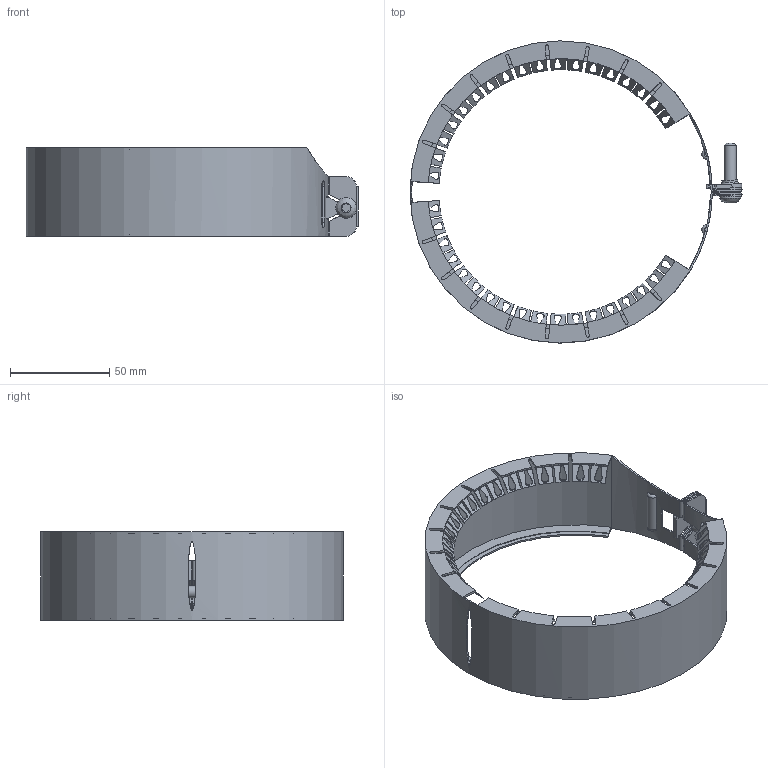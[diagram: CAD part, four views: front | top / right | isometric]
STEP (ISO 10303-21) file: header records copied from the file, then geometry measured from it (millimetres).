
FILE_DESCRIPTION(/* description */ (''),/* implementation_level */ '2;1');
FILE_NAME(/* name */ 'H:\Geberit-Teile\Export\Haltekralle\stp\390608.stp',/* time_stamp */ '2016-03-31T11:29:33+02:00',/* author */ ('seihe2'),/* organization */ (''),/* preprocessor_version */ 'ST-DEVELOPER v15.2',/* originating_system */ 'Autodesk Inventor 2014',/* authorisation */ '');
FILE_SCHEMA (('AUTOMOTIVE_DESIGN { 1 0 10303 214 3 1 1 }'));
Length unit declared in the file: millimetre
Products named in the file (1): 390608
Bounding box: 167 x 151.99 x 44.5 mm (x, y, z)
Volume: 31074.1 mm3; surface area: 92202.4 mm2
Topology: 1 solids, 1 shells, 607 faces, 1824 edges, 1179 vertices
Faces by surface type: plane 321, cylinder 180, cone 91, bspline 10, torus 5
Full cylindrical faces by diameter (mm): 6 x1, 8 x1, 10.5 x1
Entity records: 23504 total; most frequent: CARTESIAN_POINT 7344, ORIENTED_EDGE 3628, DIRECTION 2961, EDGE_CURVE 1814, VERTEX_POINT 1175, AXIS2_PLACEMENT_3D 1039, LINE 883, VECTOR 883
